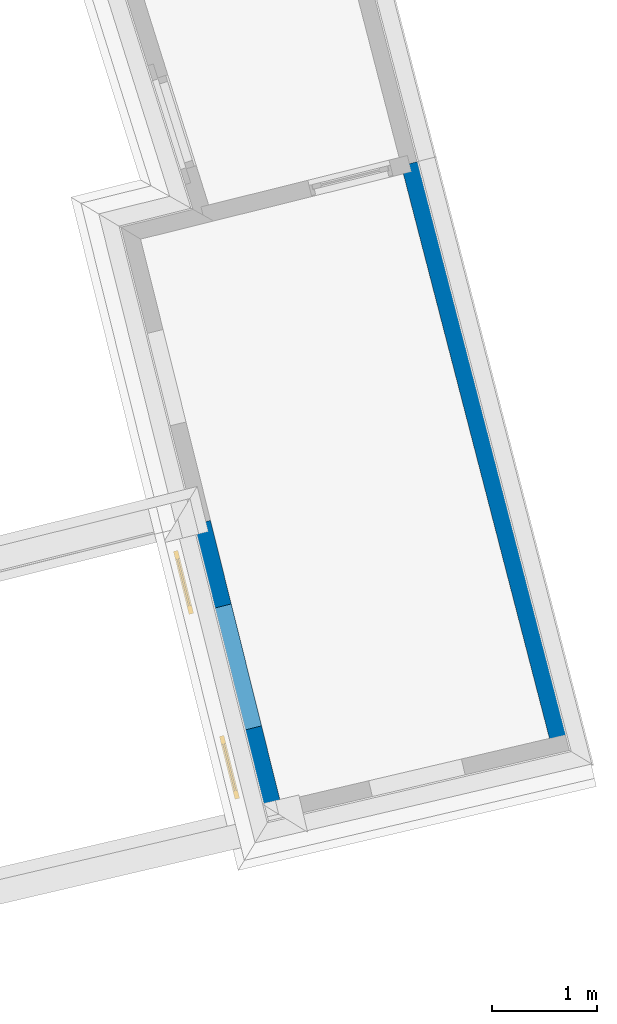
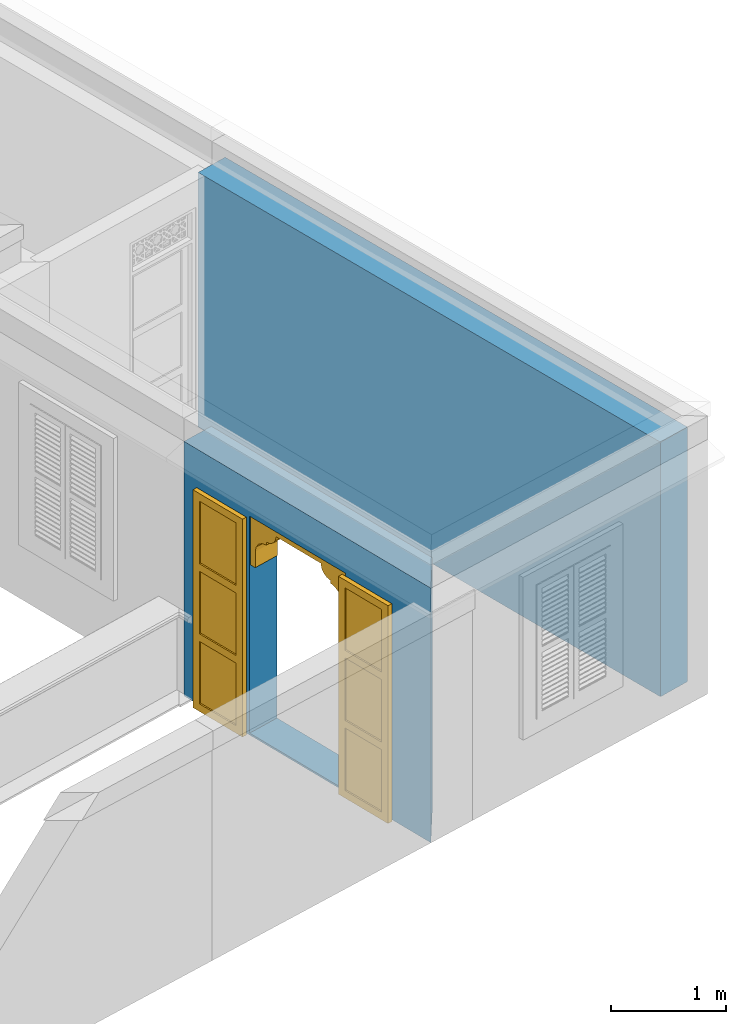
# One storey, part 3 of 13: 2 walls, 1 door, 1 opening.
"""IFC4 building model written with IfcOpenShell, lengths in metres."""

from ifc_helpers import new_model, si_unit, frame, origin, origin_with_axes, place, context, subcontext, project, spatial, polyline, outline, extrude, faceted_brep, source, transform, mapped, material, layer, layer_set, layer_usage, type_object, type_shapes, element, fill, save


model = new_model("IFC4")

# Units and contexts
model_context = context("Model", 3, world=origin_with_axes())
body_context = subcontext(model_context, "Body", "Model", "MODEL_VIEW")
ifc_project = project(units=[si_unit("PLANEANGLEUNIT", "RADIAN"), si_unit("MASSUNIT", "GRAM", prefix="KILO"), si_unit("FORCEUNIT", "NEWTON", prefix="KILO"), si_unit("LENGTHUNIT", "METRE"), si_unit("AREAUNIT", "SQUARE_METRE"), si_unit("VOLUMEUNIT", "CUBIC_METRE")], contexts=[model_context, model_context])

# Site, building, storey
site_placement = place(None, origin_with_axes())
site = spatial("IfcSite", under=ifc_project, at=site_placement, Name="Site plot-0", CompositionType="ELEMENT")
building_placement = place(None, origin_with_axes())
building = spatial("IfcBuilding", under=site, at=building_placement, Name="Building plot-0", CompositionType="ELEMENT")
storey_placement = place(None, frame((0.0, 0.0, 3.6), z_axis=(0.0, 0.0, 1.0), x_axis=(1.0, 0.0, 0.0)))
storey = spatial("IfcBuildingStorey", under=building, at=storey_placement, Name="plot-0 1", CompositionType="ELEMENT", Elevation=3.6)

# Wall, opening, door
ifc_material_1 = material(Name="Masonry")
ifc_layer_1 = layer(ifc_material_1, 0.33, ventilated=False)
ifc_layer_set_1 = layer_set([ifc_layer_1], Name="exterior_0.08_0.25")
ifc_layer_usage_1 = layer_usage(ifc_layer_set_1, "AXIS2", "POSITIVE", -0.25)
wall_type_1 = type_object("IfcWallType", Name="exterior_0.08_0.25", PredefinedType="SOLIDWALL", material=ifc_layer_set_1)
wall_1_placement = place(storey_placement, frame((7.43920512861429, 3.31131394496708, 0.0), z_axis=(0.0, 0.0, 1.0), x_axis=(0.2412137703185, -0.970472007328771, 0.0)))
wall_1 = element("IfcWall", 1, at=wall_1_placement, inside=storey, type_object=wall_type_1, material=ifc_layer_usage_1, Name="exterior", context=body_context, shape_type="SweptSolid", body=[
    extrude(outline(polyline([(1.11479997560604e-16, 0.08), (-4.59242549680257e-17, -0.25), (3.09113261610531, -0.25), (2.76557606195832, 0.0799999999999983), (1.11479997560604e-16, 0.08)])), origin_with_axes(), (0.0, 0.0, 1.0), 2.7),
])
opening_placement = place(wall_1_placement, frame((0.822249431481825, 0.0, 0.02)))
opening = element("IfcOpeningElement", 2, at=opening_placement, cuts=wall_1, Name="My Opening", ObjectType="Opening", context=body_context, shape_type="SweptSolid", body=[
    extrude(outline(polyline([(0.0, -0.270000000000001), (1.2, -0.27), (1.2, 1.1), (0.0, 1.1), (0.0, -0.270000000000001)])), origin_with_axes(), (0.0, 0.0, 1.0), 2.3),
])
door_type = type_object("IfcDoorType", Name="arch-1200x2300", OperationType="SINGLE_SWING_LEFT", PredefinedType="NOTDEFINED")
shared_shape = source(origin(), body_context, "Body", "Brep", [
    faceted_brep([(-0.08, -0.02, 0.08), (-0.08, -0.02, 0.0), (-0.54, -0.02, 0.0), (-0.54, -0.02, 0.08), (-0.62, -0.02, 0.0), (-0.62, -0.02, 0.08), (-0.54, -0.035, 0.08), (-0.08, -0.035, 0.08), (0.0, -0.02, 0.08), (0.0, -0.02, 0.0), (-0.08, -0.066, 0.0), (-0.54, -0.066, 0.0), (-0.62, -0.066, 0.0), (-0.62, -0.066, 0.08), (-0.54, -0.02, 0.743333), (-0.62, -0.02, 0.743333), (-0.54, -0.035, 0.743333), (-0.08, -0.035, 0.743333), (-0.08, -0.02, 0.743333), (0.0, -0.02, 0.743333), (0.0, -0.066, 0.08), (0.0, -0.066, 0.0), (-0.54, -0.066, 0.08), (-0.08, -0.066, 0.08), (-0.62, -0.066, 0.743333), (-0.54, -0.02, 0.823333), (-0.62, -0.02, 0.823333), (0.0, -0.066, 0.743333), (0.0, -0.02, 0.823333), (-0.08, -0.02, 0.823333), (-0.08, -0.051, 0.08), (-0.54, -0.051, 0.08), (-0.54, -0.066, 0.743333), (-0.62, -0.066, 0.823333), (-0.54, -0.02, 1.486667), (-0.62, -0.02, 1.486667), (0.0, -0.066, 0.823333), (-0.08, -0.066, 0.743333), (0.0, -0.02, 1.486667), (-0.08, -0.02, 1.486667), (-0.08, -0.051, 0.743333), (-0.54, -0.051, 0.743333), (-0.54, -0.066, 0.823333), (-0.62, -0.066, 1.486667), (-0.54, -0.035, 0.823333), (-0.08, -0.035, 0.823333), (-0.54, -0.035, 1.486667), (-0.54, -0.02, 1.566667), (-0.62, -0.02, 1.566667), (0.0, -0.066, 1.486667), (-0.08, -0.066, 0.823333), (-0.08, -0.035, 1.486667), (0.0, -0.02, 1.566667), (-0.08, -0.02, 1.566667), (-0.54, -0.066, 1.486667), (-0.62, -0.066, 1.566667), (-0.54, -0.02, 2.23), (-0.62, -0.02, 2.23), (0.0, -0.066, 1.566667), (-0.08, -0.066, 1.486667), (0.0, -0.02, 2.23), (-0.08, -0.02, 2.23), (-0.08, -0.051, 0.823333), (-0.54, -0.051, 0.823333), (-0.54, -0.051, 1.486667), (-0.54, -0.066, 1.566667), (-0.62, -0.066, 2.23), (-0.54, -0.035, 1.566667), (-0.08, -0.035, 1.566667), (-0.54, -0.035, 2.23), (-0.54, -0.02, 2.31), (-0.62, -0.02, 2.31), (0.0, -0.066, 2.23), (-0.08, -0.066, 1.566667), (-0.08, -0.051, 1.486667), (-0.08, -0.035, 2.23), (0.0, -0.02, 2.31), (-0.08, -0.02, 2.31), (-0.54, -0.066, 2.23), (-0.62, -0.066, 2.31), (-0.54, -0.066, 2.31), (0.0, -0.066, 2.31), (-0.08, -0.066, 2.23), (-0.08, -0.066, 2.31), (-0.08, -0.051, 1.566667), (-0.54, -0.051, 1.566667), (-0.54, -0.051, 2.23), (-0.08, -0.051, 2.23), (1.74, -0.02, 0.08), (1.74, -0.02, 0.0), (1.28, -0.02, 0.0), (1.28, -0.02, 0.08), (1.82, -0.02, 0.08), (1.82, -0.02, 0.0), (1.28, -0.035, 0.08), (1.74, -0.035, 0.08), (1.2, -0.02, 0.0), (1.2, -0.02, 0.08), (1.74, -0.066, 0.0), (1.28, -0.066, 0.0), (1.82, -0.066, 0.08), (1.82, -0.066, 0.0), (1.82, -0.02, 0.743333), (1.74, -0.02, 0.743333), (1.74, -0.035, 0.743333), (1.28, -0.035, 0.743333), (1.28, -0.02, 0.743333), (1.2, -0.02, 0.743333), (1.2, -0.066, 0.0), (1.2, -0.066, 0.08), (1.28, -0.066, 0.08), (1.74, -0.066, 0.08), (1.82, -0.066, 0.743333), (1.82, -0.02, 0.823333), (1.74, -0.02, 0.823333), (1.2, -0.066, 0.743333), (1.28, -0.02, 0.823333), (1.2, -0.02, 0.823333), (1.74, -0.051, 0.08), (1.28, -0.051, 0.08), (1.74, -0.066, 0.743333), (1.82, -0.066, 0.823333), (1.82, -0.02, 1.486667), (1.74, -0.02, 1.486667), (1.2, -0.066, 0.823333), (1.28, -0.066, 0.743333), (1.28, -0.02, 1.486667), (1.2, -0.02, 1.486667), (1.28, -0.051, 0.743333), (1.74, -0.051, 0.743333), (1.74, -0.066, 0.823333), (1.82, -0.066, 1.486667), (1.28, -0.035, 0.823333), (1.74, -0.035, 0.823333), (1.74, -0.035, 1.486667), (1.82, -0.02, 1.566667), (1.74, -0.02, 1.566667), (1.2, -0.066, 1.486667), (1.28, -0.066, 0.823333), (1.28, -0.035, 1.486667), (1.28, -0.02, 1.566667), (1.2, -0.02, 1.566667), (1.74, -0.066, 1.486667), (1.82, -0.066, 1.566667), (1.82, -0.02, 2.23), (1.74, -0.02, 2.23), (1.2, -0.066, 1.566667), (1.28, -0.066, 1.486667), (1.28, -0.02, 2.23), (1.2, -0.02, 2.23), (1.74, -0.051, 0.823333), (1.28, -0.051, 0.823333), (1.74, -0.051, 1.486667), (1.74, -0.066, 1.566667), (1.82, -0.066, 2.23), (1.28, -0.035, 1.566667), (1.74, -0.035, 1.566667), (1.74, -0.035, 2.23), (1.82, -0.02, 2.31), (1.74, -0.02, 2.31), (1.2, -0.066, 2.23), (1.28, -0.066, 1.566667), (1.28, -0.051, 1.486667), (1.28, -0.035, 2.23), (1.28, -0.02, 2.31), (1.2, -0.02, 2.31), (1.74, -0.066, 2.23), (1.82, -0.066, 2.31), (1.74, -0.066, 2.31), (1.2, -0.066, 2.31), (1.28, -0.066, 2.23), (1.28, -0.066, 2.31), (1.74, -0.051, 1.566667), (1.28, -0.051, 1.566667), (1.74, -0.051, 2.23), (1.28, -0.051, 2.23), (1.2, 0.03, 1.78), (1.2, 0.03, 1.95), (1.14, 0.03, 1.95), (1.14, 0.03, 1.78), (1.14, 0.3, 1.95), (1.14, 0.3, 1.78), (1.2, 0.03, 2.12), (1.129, 0.03, 2.004), (1.2, 0.3, 1.78), (1.2, 0.3, 1.95), (1.129, 0.3, 2.004), (1.099, 0.03, 2.049), (1.2, 0.3, 2.12), (1.099, 0.3, 2.049), (1.054, 0.03, 2.079), (1.2, 0.3, 2.29), (1.2, 0.03, 2.29), (1.054, 0.3, 2.079), (1.0, 0.03, 2.09), (1.0, 0.03, 2.12), (0.954, 0.03, 2.129), (0.88, 0.3, 2.29), (0.88, 0.03, 2.29), (1.0, 0.3, 2.12), (0.954, 0.3, 2.129), (1.0, 0.3, 2.09), (0.915, 0.03, 2.155), (0.889, 0.3, 2.194), (0.88, 0.3, 2.24), (0.88, 0.03, 2.24), (0.889, 0.03, 2.194), (0.915, 0.3, 2.155), (0.06, 0.03, 1.78), (0.06, 0.03, 1.95), (0.0, 0.03, 1.95), (0.0, 0.03, 1.78), (0.06, 0.3, 1.78), (0.06, 0.3, 1.95), (0.071, 0.03, 2.004), (0.0, 0.03, 2.12), (0.0, 0.3, 1.95), (0.0, 0.3, 1.78), (0.071, 0.3, 2.004), (0.101, 0.03, 2.049), (0.0, 0.3, 2.12), (0.101, 0.3, 2.049), (0.146, 0.03, 2.079), (0.0, 0.03, 2.29), (0.0, 0.3, 2.29), (0.146, 0.3, 2.079), (0.2, 0.03, 2.12), (0.2, 0.03, 2.09), (0.246, 0.03, 2.129), (0.32, 0.03, 2.29), (0.32, 0.3, 2.29), (0.246, 0.3, 2.129), (0.2, 0.3, 2.12), (0.2, 0.3, 2.09), (0.285, 0.03, 2.155), (0.32, 0.3, 2.24), (0.311, 0.3, 2.194), (0.311, 0.03, 2.194), (0.32, 0.03, 2.24), (0.285, 0.3, 2.155)], [[[0, 1, 2, 3]], [[4, 5, 3, 2]], [[0, 3, 6, 7]], [[1, 0, 8, 9]], [[2, 1, 10, 11]], [[5, 4, 12, 13]], [[14, 3, 5, 15]], [[4, 2, 11, 12]], [[3, 14, 16, 6]], [[6, 16, 17, 7]], [[18, 0, 7, 17]], [[0, 18, 19, 8]], [[9, 8, 20, 21]], [[1, 9, 21, 10]], [[22, 11, 10, 23]], [[13, 12, 11, 22]], [[15, 5, 13, 24]], [[25, 14, 15, 26]], [[14, 18, 17, 16]], [[8, 19, 27, 20]], [[28, 19, 18, 29]], [[23, 10, 21, 20]], [[22, 23, 30, 31]], [[22, 32, 24, 13]], [[26, 15, 24, 33]], [[29, 18, 14, 25]], [[34, 25, 26, 35]], [[19, 28, 36, 27]], [[20, 27, 37, 23]], [[38, 28, 29, 39]], [[23, 37, 40, 30]], [[41, 31, 30, 40]], [[32, 22, 31, 41]], [[32, 42, 33, 24]], [[35, 26, 33, 43]], [[29, 25, 44, 45]], [[25, 34, 46, 44]], [[47, 34, 35, 48]], [[28, 38, 49, 36]], [[27, 36, 50, 37]], [[39, 29, 45, 51]], [[52, 38, 39, 53]], [[37, 32, 41, 40]], [[37, 50, 42, 32]], [[42, 54, 43, 33]], [[48, 35, 43, 55]], [[44, 46, 51, 45]], [[34, 39, 51, 46]], [[34, 47, 53, 39]], [[56, 47, 48, 57]], [[38, 52, 58, 49]], [[36, 49, 59, 50]], [[60, 52, 53, 61]], [[42, 50, 62, 63]], [[54, 42, 63, 64]], [[54, 65, 55, 43]], [[57, 48, 55, 66]], [[53, 47, 67, 68]], [[47, 56, 69, 67]], [[70, 56, 57, 71]], [[52, 60, 72, 58]], [[49, 58, 73, 59]], [[50, 59, 74, 62]], [[61, 53, 68, 75]], [[76, 60, 61, 77]], [[64, 63, 62, 74]], [[59, 54, 64, 74]], [[65, 54, 59, 73]], [[65, 78, 66, 55]], [[71, 57, 66, 79]], [[67, 69, 75, 68]], [[56, 61, 75, 69]], [[77, 61, 56, 70]], [[70, 71, 79, 80]], [[60, 76, 81, 72]], [[58, 72, 82, 73]], [[76, 77, 83, 81]], [[65, 73, 84, 85]], [[78, 65, 85, 86]], [[78, 80, 79, 66]], [[77, 70, 80, 83]], [[72, 81, 83, 82]], [[73, 82, 87, 84]], [[86, 85, 84, 87]], [[82, 78, 86, 87]], [[82, 83, 80, 78]], [[88, 89, 90, 91]], [[89, 88, 92, 93]], [[94, 95, 88, 91]], [[96, 97, 91, 90]], [[98, 99, 90, 89]], [[100, 101, 93, 92]], [[102, 92, 88, 103]], [[101, 98, 89, 93]], [[95, 104, 103, 88]], [[94, 105, 104, 95]], [[105, 94, 91, 106]], [[97, 107, 106, 91]], [[108, 109, 97, 96]], [[99, 108, 96, 90]], [[110, 99, 98, 111]], [[111, 98, 101, 100]], [[112, 100, 92, 102]], [[113, 102, 103, 114]], [[104, 105, 106, 103]], [[109, 115, 107, 97]], [[116, 106, 107, 117]], [[109, 108, 99, 110]], [[118, 119, 110, 111]], [[100, 112, 120, 111]], [[121, 112, 102, 113]], [[114, 103, 106, 116]], [[122, 113, 114, 123]], [[115, 124, 117, 107]], [[110, 125, 115, 109]], [[126, 116, 117, 127]], [[119, 128, 125, 110]], [[128, 119, 118, 129]], [[129, 118, 111, 120]], [[112, 121, 130, 120]], [[131, 121, 113, 122]], [[132, 133, 114, 116]], [[133, 134, 123, 114]], [[135, 122, 123, 136]], [[124, 137, 127, 117]], [[125, 138, 124, 115]], [[139, 132, 116, 126]], [[140, 126, 127, 141]], [[128, 129, 120, 125]], [[120, 130, 138, 125]], [[121, 131, 142, 130]], [[143, 131, 122, 135]], [[132, 139, 134, 133]], [[134, 139, 126, 123]], [[126, 140, 136, 123]], [[144, 135, 136, 145]], [[137, 146, 141, 127]], [[138, 147, 137, 124]], [[148, 140, 141, 149]], [[150, 151, 138, 130]], [[152, 150, 130, 142]], [[131, 143, 153, 142]], [[154, 143, 135, 144]], [[155, 156, 136, 140]], [[156, 157, 145, 136]], [[158, 144, 145, 159]], [[146, 160, 149, 141]], [[147, 161, 146, 137]], [[151, 162, 147, 138]], [[163, 155, 140, 148]], [[164, 148, 149, 165]], [[162, 151, 150, 152]], [[162, 152, 142, 147]], [[161, 147, 142, 153]], [[143, 154, 166, 153]], [[167, 154, 144, 158]], [[155, 163, 157, 156]], [[157, 163, 148, 145]], [[159, 145, 148, 164]], [[168, 167, 158, 159]], [[160, 169, 165, 149]], [[161, 170, 160, 146]], [[169, 171, 164, 165]], [[172, 173, 161, 153]], [[174, 172, 153, 166]], [[154, 167, 168, 166]], [[171, 168, 159, 164]], [[170, 171, 169, 160]], [[173, 175, 170, 161]], [[175, 173, 172, 174]], [[175, 174, 166, 170]], [[166, 168, 171, 170]], [[176, 177, 178, 179]], [[180, 181, 179, 178]], [[177, 182, 183, 178]], [[177, 176, 184, 185]], [[181, 184, 176, 179]], [[181, 180, 185, 184]], [[186, 180, 178, 183]], [[182, 187, 183]], [[182, 177, 185, 188]], [[180, 186, 188, 185]], [[189, 186, 183, 187]], [[182, 190, 187]], [[188, 191, 192, 182]], [[188, 186, 189]], [[193, 189, 187, 190]], [[194, 190, 182, 195]], [[182, 192, 196, 195]], [[192, 191, 197, 198]], [[199, 200, 191, 188]], [[188, 189, 193]], [[201, 193, 190, 194]], [[199, 201, 194, 195]], [[200, 199, 195, 196]], [[192, 202, 196]], [[191, 203, 204, 197]], [[192, 198, 205, 206]], [[207, 191, 200]], [[199, 188, 193, 201]], [[207, 200, 196, 202]], [[192, 206, 202]], [[204, 203, 206, 205]], [[203, 191, 207]], [[203, 207, 202, 206]], [[208, 209, 210, 211]], [[209, 208, 212, 213]], [[209, 214, 215, 210]], [[211, 210, 216, 217]], [[208, 211, 217, 212]], [[217, 216, 213, 212]], [[214, 209, 213, 218]], [[214, 219, 215]], [[220, 216, 210, 215]], [[216, 220, 218, 213]], [[219, 214, 218, 221]], [[219, 222, 215]], [[215, 223, 224, 220]], [[221, 218, 220]], [[222, 219, 221, 225]], [[226, 215, 222, 227]], [[226, 228, 223, 215]], [[229, 230, 224, 223]], [[220, 224, 231, 232]], [[225, 221, 220]], [[227, 222, 225, 233]], [[226, 227, 233, 232]], [[228, 226, 232, 231]], [[228, 234, 223]], [[230, 235, 236, 224]], [[237, 238, 229, 223]], [[231, 224, 239]], [[233, 225, 220, 232]], [[234, 228, 231, 239]], [[234, 237, 223]], [[238, 237, 236, 235]], [[239, 224, 236]], [[237, 234, 239, 236]], [[238, 235, 204, 205]], [[235, 230, 197, 204]], [[229, 238, 205, 198]], [[230, 229, 198, 197]]]),
])
type_shapes(door_type, [shared_shape])
door_placement = place(storey_placement, frame((7.3755155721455, 2.44821617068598, 0.02), z_axis=(0.0, 0.0, 1.0), x_axis=(0.289456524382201, -1.16456640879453, 0.0)))
door = element("IfcDoor", 3, at=door_placement, inside=storey, type_object=door_type, Name="circulation sahn door", OverallHeight=2.3, OverallWidth=1.2, context=body_context, shape_type="MappedRepresentation", body=[
    mapped(shared_shape, transform((0.0, 0.0, 0.0), scale=1.0)),
])
fill(opening, door)

# Wall
ifc_material_2 = material(Name="Masonry")
ifc_layer_2 = layer(ifc_material_2, 0.33, ventilated=False)
ifc_layer_set_2 = layer_set([ifc_layer_2], Name="party_0.08_0.25")
ifc_layer_usage_2 = layer_usage(ifc_layer_set_2, "AXIS2", "POSITIVE", -0.25)
wall_type_2 = type_object("IfcWallType", Name="party_0.08_0.25", PredefinedType="SOLIDWALL", material=ifc_layer_set_2)
wall_2_placement = place(storey_placement, frame((10.8517354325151, 1.18934886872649, 0.0), z_axis=(0.0, 0.0, 1.0), x_axis=(-0.250522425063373, 0.968110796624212, 0.0)))
element("IfcWall", 4, at=wall_2_placement, inside=storey, type_object=wall_type_2, material=ifc_layer_usage_2, Name="party", context=body_context, shape_type="SweptSolid", body=[
    extrude(outline(polyline([(1.47007134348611e-16, 0.0800000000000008), (2.37352689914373e-16, -0.249999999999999), (5.73016908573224, -0.249999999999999), (5.73016908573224, 0.0800000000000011), (1.47007134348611e-16, 0.0800000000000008)])), origin_with_axes(), (0.0, 0.0, 1.0), 2.7),
])

save(model, "model.ifc")
